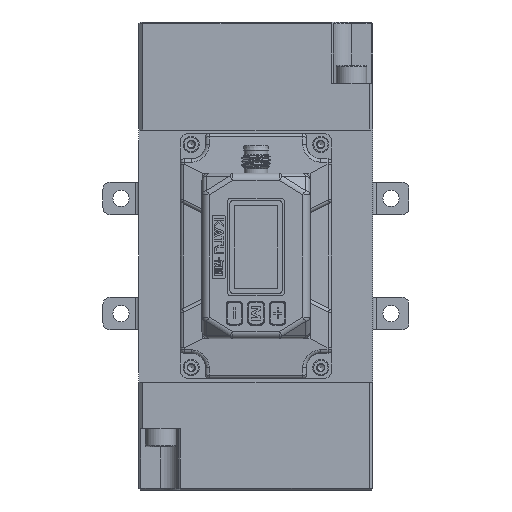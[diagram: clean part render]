
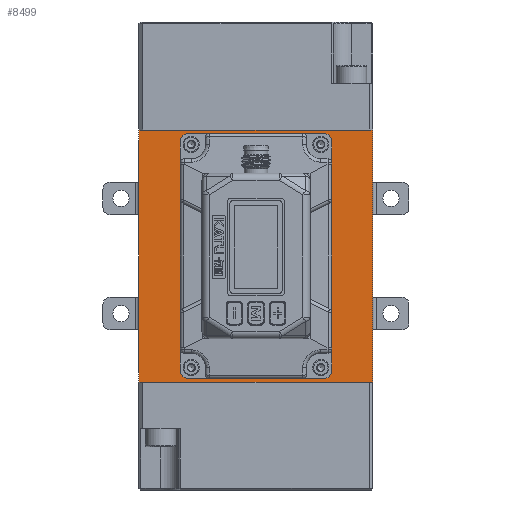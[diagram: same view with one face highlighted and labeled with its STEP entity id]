
A CAD part, left-side view. The second image highlights one B-rep face of the part: STEP entity #8499.
In plain terms, the highlighted planar face has unit normal (-1, 0, 0).
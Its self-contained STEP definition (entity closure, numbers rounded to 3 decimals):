
#1707=PLANE('',#26230);
#2592=FACE_BOUND('',#11292,.T.);
#2593=FACE_BOUND('',#11293,.T.);
#3464=CIRCLE('',#26226,2.);
#3465=CIRCLE('',#26227,2.);
#3466=CIRCLE('',#26228,2.);
#3467=CIRCLE('',#26229,2.);
#4600=LINE('',#40298,#6623);
#4606=LINE('',#40310,#6629);
#4652=LINE('',#40496,#6675);
#4653=LINE('',#40497,#6676);
#4654=LINE('',#40501,#6677);
#4655=LINE('',#40505,#6678);
#4656=LINE('',#40509,#6679);
#4657=LINE('',#40513,#6680);
#6623=VECTOR('',#29097,1.);
#6629=VECTOR('',#29105,1.);
#6675=VECTOR('',#29255,1.);
#6676=VECTOR('',#29256,1.);
#6677=VECTOR('',#29259,1.);
#6678=VECTOR('',#29262,1.);
#6679=VECTOR('',#29265,1.);
#6680=VECTOR('',#29268,1.);
#8499=ADVANCED_FACE('',(#2592,#2593),#1707,.T.);
#11292=EDGE_LOOP('',(#13688,#13689,#13690,#13691));
#11293=EDGE_LOOP('',(#13692,#13693,#13694,#13695,#13696,#13697,#13698,#13699));
#13688=ORIENTED_EDGE('',*,*,#22553,.F.);
#13689=ORIENTED_EDGE('',*,*,#22651,.T.);
#13690=ORIENTED_EDGE('',*,*,#22559,.T.);
#13691=ORIENTED_EDGE('',*,*,#22652,.F.);
#13692=ORIENTED_EDGE('',*,*,#22653,.T.);
#13693=ORIENTED_EDGE('',*,*,#22654,.T.);
#13694=ORIENTED_EDGE('',*,*,#22655,.F.);
#13695=ORIENTED_EDGE('',*,*,#22656,.T.);
#13696=ORIENTED_EDGE('',*,*,#22657,.T.);
#13697=ORIENTED_EDGE('',*,*,#22658,.F.);
#13698=ORIENTED_EDGE('',*,*,#22659,.T.);
#13699=ORIENTED_EDGE('',*,*,#22660,.F.);
#20227=VERTEX_POINT('',#40297);
#20228=VERTEX_POINT('',#40299);
#20233=VERTEX_POINT('',#40311);
#20234=VERTEX_POINT('',#40312);
#20321=VERTEX_POINT('',#40499);
#20322=VERTEX_POINT('',#40500);
#20323=VERTEX_POINT('',#40502);
#20324=VERTEX_POINT('',#40504);
#20325=VERTEX_POINT('',#40506);
#20326=VERTEX_POINT('',#40508);
#20327=VERTEX_POINT('',#40510);
#20328=VERTEX_POINT('',#40512);
#22553=EDGE_CURVE('',#20227,#20228,#4600,.T.);
#22559=EDGE_CURVE('',#20233,#20234,#4606,.T.);
#22651=EDGE_CURVE('',#20227,#20233,#4652,.T.);
#22652=EDGE_CURVE('',#20228,#20234,#4653,.T.);
#22653=EDGE_CURVE('',#20321,#20322,#3464,.T.);
#22654=EDGE_CURVE('',#20322,#20323,#4654,.T.);
#22655=EDGE_CURVE('',#20324,#20323,#3465,.T.);
#22656=EDGE_CURVE('',#20324,#20325,#4655,.T.);
#22657=EDGE_CURVE('',#20325,#20326,#3466,.T.);
#22658=EDGE_CURVE('',#20327,#20326,#4656,.T.);
#22659=EDGE_CURVE('',#20327,#20328,#3467,.T.);
#22660=EDGE_CURVE('',#20321,#20328,#4657,.T.);
#26226=AXIS2_PLACEMENT_3D('',#40498,#29257,#29258);
#26227=AXIS2_PLACEMENT_3D('',#40503,#29260,#29261);
#26228=AXIS2_PLACEMENT_3D('',#40507,#29263,#29264);
#26229=AXIS2_PLACEMENT_3D('',#40511,#29266,#29267);
#26230=AXIS2_PLACEMENT_3D('',#40514,#29269,#29270);
#29097=DIRECTION('',(0.,0.,-1.));
#29105=DIRECTION('',(0.,0.,-1.));
#29255=DIRECTION('',(0.,1.,0.));
#29256=DIRECTION('',(0.,1.,0.));
#29257=DIRECTION('',(1.,0.,0.));
#29258=DIRECTION('',(0.,0.,1.));
#29259=DIRECTION('',(0.,0.,-1.));
#29260=DIRECTION('',(-1.,0.,0.));
#29261=DIRECTION('',(0.,0.,1.));
#29262=DIRECTION('',(0.,1.,0.));
#29263=DIRECTION('',(1.,0.,0.));
#29264=DIRECTION('',(0.,0.,1.));
#29265=DIRECTION('',(0.,0.,-1.));
#29266=DIRECTION('',(1.,0.,0.));
#29267=DIRECTION('',(0.,0.,1.));
#29268=DIRECTION('',(0.,1.,0.));
#29269=DIRECTION('',(-1.,0.,0.));
#29270=DIRECTION('',(0.,-1.,0.));
#40297=CARTESIAN_POINT('',(-3.,-5.,-8.));
#40298=CARTESIAN_POINT('',(-3.,-5.,-43.));
#40299=CARTESIAN_POINT('',(-3.,-5.,-78.));
#40310=CARTESIAN_POINT('',(-3.,60.,-100.));
#40311=CARTESIAN_POINT('',(-3.,60.,-8.));
#40312=CARTESIAN_POINT('',(-3.,60.,-78.));
#40496=CARTESIAN_POINT('',(-3.,55.,-8.));
#40497=CARTESIAN_POINT('',(-3.,55.,-78.));
#40498=CARTESIAN_POINT('',(-3.,8.5,-11.));
#40499=CARTESIAN_POINT('',(-3.,8.5,-9.));
#40500=CARTESIAN_POINT('',(-3.,6.5,-11.));
#40501=CARTESIAN_POINT('',(-3.,6.5,-77.));
#40502=CARTESIAN_POINT('',(-3.,6.5,-75.));
#40503=CARTESIAN_POINT('',(-3.,8.5,-75.));
#40504=CARTESIAN_POINT('',(-3.,8.5,-77.));
#40505=CARTESIAN_POINT('',(-3.,48.5,-77.));
#40506=CARTESIAN_POINT('',(-3.,46.5,-77.));
#40507=CARTESIAN_POINT('',(-3.,46.5,-75.));
#40508=CARTESIAN_POINT('',(-3.,48.5,-75.));
#40509=CARTESIAN_POINT('',(-3.,48.5,-100.));
#40510=CARTESIAN_POINT('',(-3.,48.5,-11.));
#40511=CARTESIAN_POINT('',(-3.,46.5,-11.));
#40512=CARTESIAN_POINT('',(-3.,46.5,-9.));
#40513=CARTESIAN_POINT('',(-3.,55.,-9.));
#40514=CARTESIAN_POINT('',(-3.,55.,-100.));
